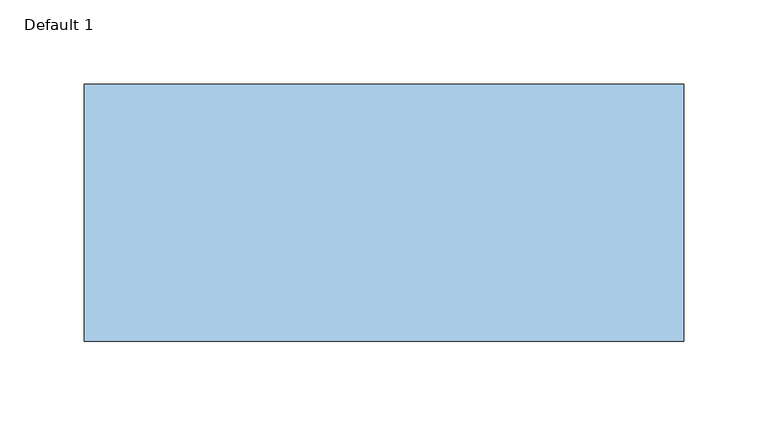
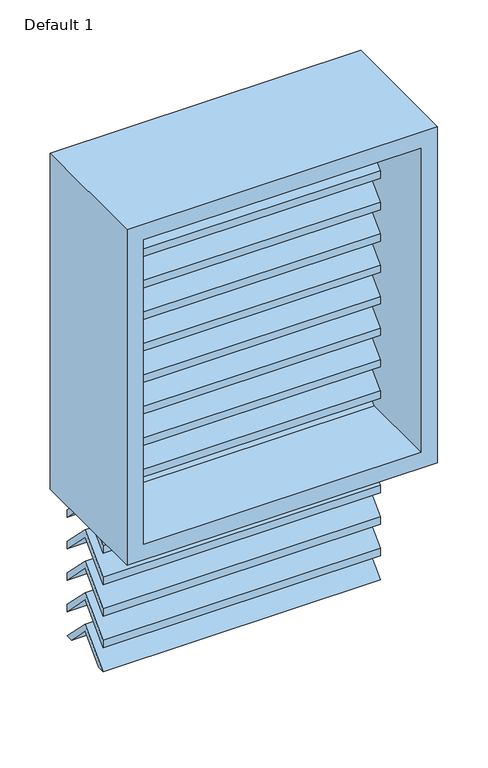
"""IFC4 building model written with IfcOpenShell, lengths in millimetres: window geometry, Planitar- Jalouise : Default 1."""

from ifc_helpers import new_model, si_unit, frame, origin, place, context, project, spatial, polyline, outline, extrude, source, transform, mapped, element, save


def default_1_43741756(model_context):
    return source(origin(), model_context, "Body", "SweptSolid", [
        extrude(outline(polyline([(33.9289755, 766.1710245), (69.85, 730.25), (60.8697439, 730.25), (33.9289755, 757.1907684), (6.9882072, 730.25), (-1.992049, 730.25), (33.9289755, 766.1710245)])), frame((-158.75, 0.0, 0.0), z_axis=(1.0, 0.0, 0.0), x_axis=(0.0, 1.0, 0.0)), (0.0, 0.0, 1.0), 317.5),
        extrude(outline(polyline([(33.9289755, 804.2710245), (69.85, 768.35), (69.85, 759.3697439), (33.9289755, 795.2907684), (-1.992049, 759.3697439), (-1.992049, 768.35), (33.9289755, 804.2710245)])), frame((-158.75, 0.0, 0.0), z_axis=(1.0, 0.0, 0.0), x_axis=(0.0, 1.0, 0.0)), (0.0, 0.0, 1.0), 317.5),
        extrude(outline(polyline([(33.9289755, 842.3710245), (69.85, 806.45), (69.85, 797.4697439), (33.9289755, 833.3907684), (-1.992049, 797.4697439), (-1.992049, 806.45), (33.9289755, 842.3710245)])), frame((-158.75, 0.0, 0.0), z_axis=(1.0, 0.0, 0.0), x_axis=(0.0, 1.0, 0.0)), (0.0, 0.0, 1.0), 317.5),
        extrude(outline(polyline([(33.9289755, 880.4710245), (69.85, 844.55), (69.85, 835.5697439), (33.9289755, 871.4907684), (-1.992049, 835.5697439), (-1.992049, 844.55), (33.9289755, 880.4710245)])), frame((-158.75, 0.0, 0.0), z_axis=(1.0, 0.0, 0.0), x_axis=(0.0, 1.0, 0.0)), (0.0, 0.0, 1.0), 317.5),
        extrude(outline(polyline([(33.9289755, 918.5710245), (69.85, 882.65), (69.85, 873.6697439), (33.9289755, 909.5907684), (-1.992049, 873.6697439), (-1.992049, 882.65), (33.9289755, 918.5710245)])), frame((-158.75, 0.0, 0.0), z_axis=(1.0, 0.0, 0.0), x_axis=(0.0, 1.0, 0.0)), (0.0, 0.0, 1.0), 317.5),
        extrude(outline(polyline([(33.9289755, 956.6710245), (69.85, 920.75), (69.85, 911.7697439), (33.9289755, 947.6907684), (-1.992049, 911.7697439), (-1.992049, 920.75), (33.9289755, 956.6710245)])), frame((-158.75, 0.0, 0.0), z_axis=(1.0, 0.0, 0.0), x_axis=(0.0, 1.0, 0.0)), (0.0, 0.0, 1.0), 317.5),
        extrude(outline(polyline([(33.9289755, 994.7710245), (69.85, 958.85), (69.85, 949.8697439), (33.9289755, 985.7907684), (-1.992049, 949.8697439), (-1.992049, 958.85), (33.9289755, 994.7710245)])), frame((-158.75, 0.0, 0.0), z_axis=(1.0, 0.0, 0.0), x_axis=(0.0, 1.0, 0.0)), (0.0, 0.0, 1.0), 317.5),
        extrude(outline(polyline([(33.9289755, 1032.8710245), (69.85, 996.95), (69.85, 987.9697439), (33.9289755, 1023.8907684), (-1.992049, 987.9697439), (-1.992049, 996.95), (33.9289755, 1032.8710245)])), frame((-158.75, 0.0, 0.0), z_axis=(1.0, 0.0, 0.0), x_axis=(0.0, 1.0, 0.0)), (0.0, 0.0, 1.0), 317.5),
        extrude(outline(polyline([(33.9289755, 1070.9710245), (69.85, 1035.05), (69.85, 1026.0697439), (33.9289755, 1061.9907684), (-1.992049, 1026.0697439), (-1.992049, 1035.05), (33.9289755, 1070.9710245)])), frame((-158.75, 0.0, 0.0), z_axis=(1.0, 0.0, 0.0), x_axis=(0.0, 1.0, 0.0)), (0.0, 0.0, 1.0), 317.5),
        extrude(outline(polyline([(33.9289755, 1109.0710245), (69.85, 1073.15), (69.85, 1064.1697439), (33.9289755, 1100.0907684), (-1.992049, 1064.1697439), (-1.992049, 1073.15), (33.9289755, 1109.0710245)])), frame((-158.75, 0.0, 0.0), z_axis=(1.0, 0.0, 0.0), x_axis=(0.0, 1.0, 0.0)), (0.0, 0.0, 1.0), 317.5),
        extrude(outline(polyline([(33.9289755, 1147.1710245), (69.85, 1111.25), (69.85, 1102.2697439), (33.9289755, 1138.1907684), (-1.992049, 1102.2697439), (-1.992049, 1111.25), (33.9289755, 1147.1710245)])), frame((-158.75, 0.0, 0.0), z_axis=(1.0, 0.0, 0.0), x_axis=(0.0, 1.0, 0.0)), (0.0, 0.0, 1.0), 317.5),
        extrude(outline(polyline([(33.9289755, 1185.2710245), (69.85, 1149.35), (69.85, 1140.3697439), (33.9289755, 1176.2907684), (-1.992049, 1140.3697439), (-1.992049, 1149.35), (33.9289755, 1185.2710245)])), frame((-158.75, 0.0, 0.0), z_axis=(1.0, 0.0, 0.0), x_axis=(0.0, 1.0, 0.0)), (0.0, 0.0, 1.0), 317.5),
        extrude(outline(polyline([(33.9289755, 1223.3710245), (69.85, 1187.45), (69.85, 1178.4697439), (33.9289755, 1214.3907684), (-1.992049, 1178.4697439), (-1.992049, 1187.45), (33.9289755, 1223.3710245)])), frame((-158.75, 0.0, 0.0), z_axis=(1.0, 0.0, 0.0), x_axis=(0.0, 1.0, 0.0)), (0.0, 0.0, 1.0), 317.5),
        extrude(outline(polyline([(33.9289755, 1261.4710245), (69.85, 1225.55), (69.85, 1216.5697439), (33.9289755, 1252.4907684), (-1.992049, 1216.5697439), (-1.992049, 1225.55), (33.9289755, 1261.4710245)])), frame((-158.75, 0.0, 0.0), z_axis=(1.0, 0.0, 0.0), x_axis=(0.0, 1.0, 0.0)), (0.0, 0.0, 1.0), 317.5),
        extrude(outline(polyline([(33.9289755, 1299.5710245), (69.85, 1263.65), (69.85, 1254.6697439), (33.9289755, 1290.5907684), (-1.992049, 1254.6697439), (-1.992049, 1263.65), (33.9289755, 1299.5710245)])), frame((-158.75, 0.0, 0.0), z_axis=(1.0, 0.0, 0.0), x_axis=(0.0, 1.0, 0.0)), (0.0, 0.0, 1.0), 317.5),
        extrude(outline(polyline([(1320.8, -177.8), (914.4, -177.8), (914.4, 177.8), (1320.8, 177.8), (1320.8, -177.8)]), holes=[polyline([(1301.75, -158.75), (1301.75, 158.75), (933.45, 158.75), (933.45, -158.75), (1301.75, -158.75)])]), frame((0.0, -82.55, 0.0), z_axis=(0.0, 1.0, 0.0), x_axis=(0.0, 0.0, 1.0)), (0.0, 0.0, 1.0), 152.4),
    ])


if __name__ == "__main__":
    model = new_model("IFC4")
    model_context = context("Model", 3, world=origin())
    ifc_project = project(units=[si_unit("LENGTHUNIT", "METRE", prefix="MILLI")], contexts=[model_context])
    site = spatial("IfcSite", under=ifc_project)
    building = spatial("IfcBuilding", under=site)
    placement = place(None, origin())
    default_1_shape = default_1_43741756(model_context)
    element("IfcWindow", 1, ObjectType="Planitar- Jalouise : Default 1", at=placement, inside=building, context=model_context, shape_type="MappedRepresentation", body=[
        mapped(default_1_shape, transform((0.0, 0.0, 0.0), x_axis=(1.0, 0.0, 0.0), y_axis=(0.0, 1.0, 0.0), z_axis=(0.0, 0.0, 1.0))),
    ])
    save(model, "model.ifc")
